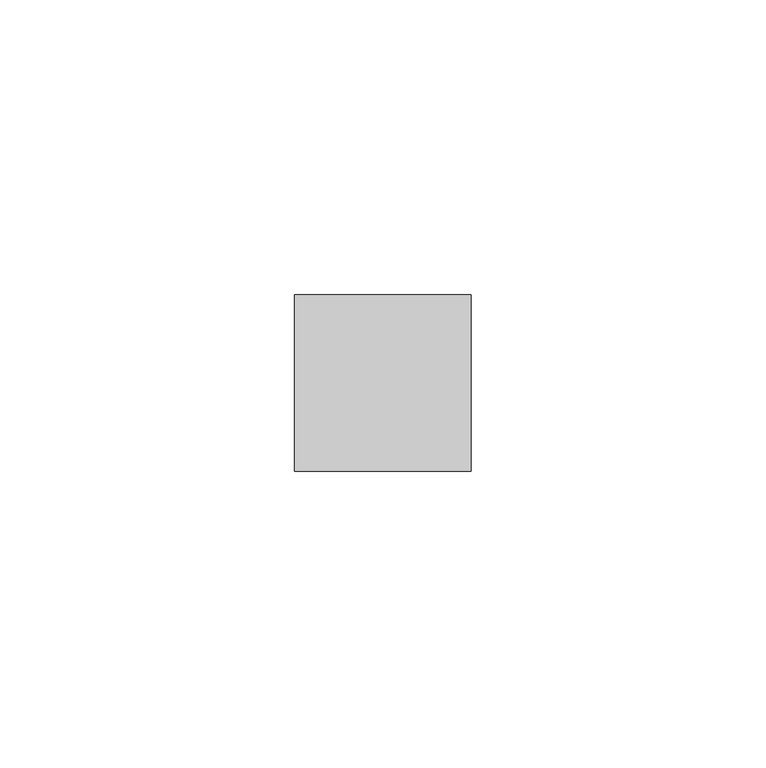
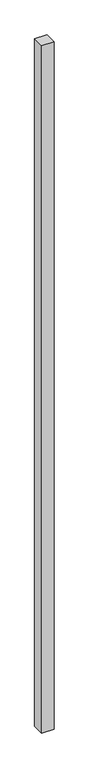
"""IFC4 building model written with IfcOpenShell, lengths in millimetres: member geometry, 矩形竖梃 : 30mm 正方形."""

from ifc_helpers import new_model, si_unit, frame, origin, place, context, project, spatial, polyline, outline, extrude, source, transform, mapped, element, save


def member_9556eaea(model_context):
    return source(origin(), model_context, "Body", "SweptSolid", [
        extrude(outline(polyline([(0.0, 15.0), (0.0, -15.0), (-30.0, -15.0), (-30.0, 15.0), (0.0, 15.0)])), frame((0.0, 0.0, -1788.3333333), z_axis=(0.0, 0.0, 1.0), x_axis=(1.0, 0.0, 0.0)), (0.0, 0.0, 1.0), 1788.3333333),
    ])


if __name__ == "__main__":
    model = new_model("IFC4")
    model_context = context("Model", 3, world=origin())
    ifc_project = project(units=[si_unit("LENGTHUNIT", "METRE", prefix="MILLI")], contexts=[model_context])
    site = spatial("IfcSite", under=ifc_project)
    building = spatial("IfcBuilding", under=site)
    placement = place(None, origin())
    member_shape = member_9556eaea(model_context)
    element("IfcMember", 1, ObjectType="矩形竖梃 : 30mm 正方形", at=placement, inside=building, context=model_context, shape_type="MappedRepresentation", body=[
        mapped(member_shape, transform((0.0, 0.0, 0.0), x_axis=(1.0, 0.0, 0.0), y_axis=(0.0, 1.0, 0.0), z_axis=(0.0, 0.0, 1.0))),
    ])
    save(model, "model.ifc")
